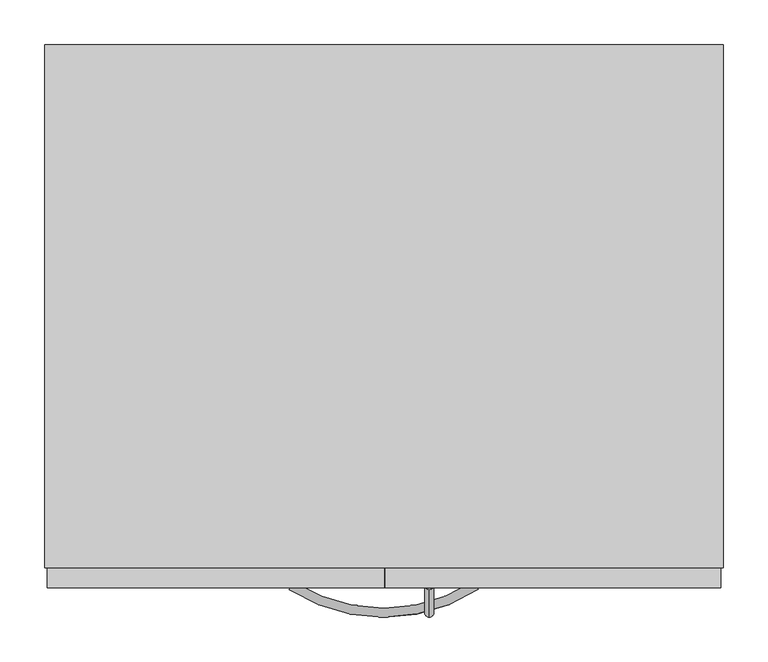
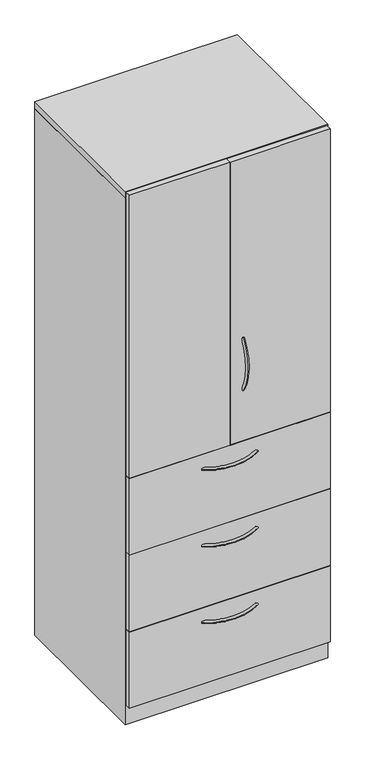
"""IFC4 building model written with IfcOpenShell, lengths in millimetres: furniture geometry, Steelcase - Universal Storage - Cabinet - Combination - Proud Steel : 83 1/2H - Hinged Doors/3 Drawers - 24D x 30W."""

from ifc_helpers import new_model, si_unit, point, frame, origin, place, context, project, spatial, polyline, circle_curve, ellipse_curve, trimmed, outline, extrude, faceted_brep, source, transform, mapped, element, save
from ifc_brep_helpers import plane_surface, revolved_surface, advanced_brep


def furniture_d0ad744f(model_context):
    return source(origin(), model_context, "Body", "SolidModel", [
        extrude(outline(polyline([(758.8225413, -479.552), (3.1725353, -479.552), (3.1725353, -457.3261219), (758.8225413, -457.3261219), (758.8225413, -479.552)])), frame((0.0, 0.0, 77.724), z_axis=(0.0, 0.0, 1.0), x_axis=(1.0, 0.0, 0.0)), (0.0, 0.0, 1.0), 303.276),
        extrude(outline(polyline([(758.8225413, -479.552), (3.1725353, -479.552), (3.1725353, -457.3261219), (758.8225413, -457.3261219), (758.8225413, -479.552)])), frame((0.0, 0.0, 382.524), z_axis=(0.0, 0.0, 1.0), x_axis=(1.0, 0.0, 0.0)), (0.0, 0.0, 1.0), 303.276),
        extrude(outline(polyline([(758.8225413, -479.552), (3.1725353, -479.552), (3.1725353, -457.3261219), (758.8225413, -457.3261219), (758.8225413, -479.552)])), frame((0.0, 0.0, 687.3240349), z_axis=(0.0, 0.0, 1.0), x_axis=(1.0, 0.0, 0.0)), (0.0, 0.0, 1.0), 303.2759651),
        extrude(outline(polyline([(381.0, -479.552), (3.1725353, -479.552), (3.1725353, -457.3261219), (381.0, -457.3261219), (381.0, -479.552)])), frame((0.0, 0.0, 992.5062596), z_axis=(0.0, 0.0, 1.0), x_axis=(1.0, 0.0, 0.0)), (0.0, 0.0, 1.0), 1125.22),
        extrude(outline(polyline([(758.8225413, -479.552), (382.5239992, -479.552), (382.5239992, -457.3261219), (758.8225413, -457.3261219), (758.8225413, -479.552)])), frame((0.0, 0.0, 992.5062596), z_axis=(0.0, 0.0, 1.0), x_axis=(1.0, 0.0, 0.0)), (0.0, 0.0, 1.0), 1125.22),
        advanced_brep(
        [(431.7682496, -481.5705994, 1404.643666), (431.7682496, -473.0108019, 1399.1705073), (431.7682496, -481.1337636, 1192.3367456), (431.7682496, -472.5965612, 1197.8450825)],
        [
            (0, 1, circle_curve(frame((431.7682496, -477.2907007, 1401.9070866), z_axis=(0.0, 0.5386967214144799, 0.842499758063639), x_axis=(0.0, 0.842499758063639, -0.5386967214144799)), 5.08)),
            (1, 0, circle_curve(frame((431.7682496, -477.2907007, 1401.9070866), z_axis=(0.0, 0.5386967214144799, 0.842499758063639), x_axis=(0.0, 0.842499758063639, -0.5386967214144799)), 5.08)),
            (2, 3, circle_curve(frame((431.7682496, -476.8651624, 1195.0909141), z_axis=(0.0, 0.5421591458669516, -0.8402758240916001), x_axis=(0.0, 0.8402758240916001, 0.5421591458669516)), 5.08)),
            (3, 2, circle_curve(frame((431.7682496, -476.8651624, 1195.0909141), z_axis=(0.0, 0.5421591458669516, -0.8402758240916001), x_axis=(0.0, 0.8402758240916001, 0.5421591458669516)), 5.08)),
            (3, 1, circle_curve(frame((431.7682496, -316.0827352, 1298.8302589), z_axis=(-1.0, 0.0, 0.0), x_axis=(0.0, -0.8424997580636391, 0.5386967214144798)), 186.2648211)),
            (0, 2, circle_curve(frame((431.7682496, -316.0827352, 1298.8302589), z_axis=(1.0, 0.0, 0.0), x_axis=(0.0, -0.8424997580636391, 0.5386967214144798)), 196.4248211)),
        ],
        [
            plane_surface(frame((432.5619996, -476.6365286, 1401.4888072), z_axis=(0.0, 0.5386967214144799, 0.8424997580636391), x_axis=(1.0, 0.0, 0.0))),
            plane_surface(frame((432.5619996, -476.2127171, 1195.511882), z_axis=(0.0, 0.5421591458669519, -0.8402758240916), x_axis=(1.0, 0.0, 0.0))),
            revolved_surface(trimmed(ellipse_curve(frame((431.7682496, -477.2907007, 1401.9070866), z_axis=(0.0, 0.5386967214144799, 0.842499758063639), x_axis=(0.0, 0.842499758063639, -0.5386967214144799)), 5.08, 5.08), [point((431.7682496, -481.5705994, 1404.643666))], [point((431.7682496, -473.0108019, 1399.1705073))], True, "CARTESIAN"), (432.5619996, -316.0827352, 1298.8302589), (1.0, 0.0, 0.0)),
            revolved_surface(trimmed(ellipse_curve(frame((431.7682496, -477.2907007, 1401.9070866), z_axis=(0.0, 0.5386967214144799, 0.842499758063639), x_axis=(0.0, 0.842499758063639, -0.5386967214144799)), 5.08, 5.08), [point((431.7682496, -473.0108019, 1399.1705073))], [point((431.7682496, -481.5705994, 1404.643666))], True, "CARTESIAN"), (432.5619996, -316.0827352, 1298.8302589), (1.0, 0.0, 0.0)),
        ],
        [
            (0, [[1, 2]]),
            (1, [[3, 4]]),
            (2, [[5, -1, 6, -4]]),
            (3, [[-6, -2, -5, -3]]),
        ],
    ),
        advanced_brep(
        [(274.4245932, -481.5705994, 323.56425), (279.8977519, -473.0108019, 323.56425), (486.7315136, -481.1337636, 323.56425), (481.2231767, -472.5965612, 323.56425)],
        [
            (0, 1, circle_curve(frame((277.1611726, -477.2907007, 323.56425), z_axis=(-0.8424997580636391, 0.5386967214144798, 0.0), x_axis=(0.5386967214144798, 0.8424997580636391, 0.0)), 5.08)),
            (1, 0, circle_curve(frame((277.1611726, -477.2907007, 323.56425), z_axis=(-0.8424997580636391, 0.5386967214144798, 0.0), x_axis=(0.5386967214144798, 0.8424997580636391, 0.0)), 5.08)),
            (2, 3, circle_curve(frame((483.9773452, -476.8651624, 323.56425), z_axis=(0.8402758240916, 0.5421591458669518, 0.0), x_axis=(-0.5421591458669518, 0.8402758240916, 0.0)), 5.08)),
            (3, 2, circle_curve(frame((483.9773452, -476.8651624, 323.56425), z_axis=(0.8402758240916, 0.5421591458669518, 0.0), x_axis=(-0.5421591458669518, 0.8402758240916, 0.0)), 5.08)),
            (3, 1, circle_curve(frame((380.2380004, -316.0827352, 323.56425), z_axis=(0.0, 0.0, -1.0), x_axis=(-0.5386967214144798, -0.8424997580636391, 0.0)), 186.2648211)),
            (0, 2, circle_curve(frame((380.2380004, -316.0827352, 323.56425), z_axis=(0.0, 0.0, 1.0), x_axis=(-0.5386967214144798, -0.8424997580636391, 0.0)), 196.4248211)),
        ],
        [
            plane_surface(frame((277.5794521, -476.6365286, 324.358), z_axis=(-0.8424997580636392, 0.5386967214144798, 0.0), x_axis=(0.0, 0.0, 1.0))),
            plane_surface(frame((483.5563772, -476.2127171, 324.358), z_axis=(0.8402758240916, 0.5421591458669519, 0.0), x_axis=(0.0, 0.0, 1.0))),
            revolved_surface(trimmed(ellipse_curve(frame((277.1611726, -477.2907007, 323.56425), z_axis=(-0.8424997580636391, 0.5386967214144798, 0.0), x_axis=(0.5386967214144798, 0.8424997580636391, 0.0)), 5.08, 5.08), [point((274.4245932, -481.5705994, 323.56425))], [point((279.8977519, -473.0108019, 323.56425))], True, "CARTESIAN"), (380.2380004, -316.0827352, 324.358), (0.0, 0.0, 1.0)),
            revolved_surface(trimmed(ellipse_curve(frame((277.1611726, -477.2907007, 323.56425), z_axis=(-0.8424997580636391, 0.5386967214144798, 0.0), x_axis=(0.5386967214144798, 0.8424997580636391, 0.0)), 5.08, 5.08), [point((279.8977519, -473.0108019, 323.56425))], [point((274.4245932, -481.5705994, 323.56425))], True, "CARTESIAN"), (380.2380004, -316.0827352, 324.358), (0.0, 0.0, 1.0)),
        ],
        [
            (0, [[1, 2]]),
            (1, [[3, 4]]),
            (2, [[5, -1, 6, -4]]),
            (3, [[-6, -2, -5, -3]]),
        ],
    ),
        advanced_brep(
        [(274.4245932, -481.5705994, 627.85625), (279.8977519, -473.0108019, 627.85625), (486.7315136, -481.1337636, 627.85625), (481.2231767, -472.5965612, 627.85625)],
        [
            (0, 1, circle_curve(frame((277.1611726, -477.2907007, 627.85625), z_axis=(-0.8424997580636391, 0.5386967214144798, 0.0), x_axis=(0.5386967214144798, 0.8424997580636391, 0.0)), 5.08)),
            (1, 0, circle_curve(frame((277.1611726, -477.2907007, 627.85625), z_axis=(-0.8424997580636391, 0.5386967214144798, 0.0), x_axis=(0.5386967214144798, 0.8424997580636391, 0.0)), 5.08)),
            (2, 3, circle_curve(frame((483.9773452, -476.8651624, 627.85625), z_axis=(0.8402758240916, 0.5421591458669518, 0.0), x_axis=(-0.5421591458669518, 0.8402758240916, 0.0)), 5.08)),
            (3, 2, circle_curve(frame((483.9773452, -476.8651624, 627.85625), z_axis=(0.8402758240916, 0.5421591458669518, 0.0), x_axis=(-0.5421591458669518, 0.8402758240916, 0.0)), 5.08)),
            (3, 1, circle_curve(frame((380.2380004, -316.0827352, 627.85625), z_axis=(0.0, 0.0, -1.0), x_axis=(-0.5386967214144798, -0.8424997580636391, 0.0)), 186.2648211)),
            (0, 2, circle_curve(frame((380.2380004, -316.0827352, 627.85625), z_axis=(0.0, 0.0, 1.0), x_axis=(-0.5386967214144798, -0.8424997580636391, 0.0)), 196.4248211)),
        ],
        [
            plane_surface(frame((277.5794521, -476.6365286, 628.65), z_axis=(-0.8424997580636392, 0.5386967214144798, 0.0), x_axis=(0.0, 0.0, 1.0))),
            plane_surface(frame((483.5563772, -476.2127171, 628.65), z_axis=(0.8402758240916, 0.5421591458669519, 0.0), x_axis=(0.0, 0.0, 1.0))),
            revolved_surface(trimmed(ellipse_curve(frame((277.1611726, -477.2907007, 627.85625), z_axis=(-0.8424997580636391, 0.5386967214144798, 0.0), x_axis=(0.5386967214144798, 0.8424997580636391, 0.0)), 5.08, 5.08), [point((274.4245932, -481.5705994, 627.85625))], [point((279.8977519, -473.0108019, 627.85625))], True, "CARTESIAN"), (380.2380004, -316.0827352, 628.65), (0.0, 0.0, 1.0)),
            revolved_surface(trimmed(ellipse_curve(frame((277.1611726, -477.2907007, 627.85625), z_axis=(-0.8424997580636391, 0.5386967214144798, 0.0), x_axis=(0.5386967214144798, 0.8424997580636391, 0.0)), 5.08, 5.08), [point((279.8977519, -473.0108019, 627.85625))], [point((274.4245932, -481.5705994, 627.85625))], True, "CARTESIAN"), (380.2380004, -316.0827352, 628.65), (0.0, 0.0, 1.0)),
        ],
        [
            (0, [[1, 2]]),
            (1, [[3, 4]]),
            (2, [[5, -1, 6, -4]]),
            (3, [[-6, -2, -5, -3]]),
        ],
    ),
        advanced_brep(
        [(274.4245932, -481.5705994, 932.65625), (279.8977519, -473.0108019, 932.65625), (486.7315136, -481.1337636, 932.65625), (481.2231767, -472.5965612, 932.65625)],
        [
            (0, 1, circle_curve(frame((277.1611726, -477.2907007, 932.65625), z_axis=(-0.8424997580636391, 0.5386967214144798, 0.0), x_axis=(0.5386967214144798, 0.8424997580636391, 0.0)), 5.08)),
            (1, 0, circle_curve(frame((277.1611726, -477.2907007, 932.65625), z_axis=(-0.8424997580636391, 0.5386967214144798, 0.0), x_axis=(0.5386967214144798, 0.8424997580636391, 0.0)), 5.08)),
            (2, 3, circle_curve(frame((483.9773452, -476.8651624, 932.65625), z_axis=(0.8402758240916, 0.5421591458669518, 0.0), x_axis=(-0.5421591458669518, 0.8402758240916, 0.0)), 5.08)),
            (3, 2, circle_curve(frame((483.9773452, -476.8651624, 932.65625), z_axis=(0.8402758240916, 0.5421591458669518, 0.0), x_axis=(-0.5421591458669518, 0.8402758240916, 0.0)), 5.08)),
            (3, 1, circle_curve(frame((380.2380004, -316.0827352, 932.65625), z_axis=(0.0, 0.0, -1.0), x_axis=(-0.5386967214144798, -0.8424997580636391, 0.0)), 186.2648211)),
            (0, 2, circle_curve(frame((380.2380004, -316.0827352, 932.65625), z_axis=(0.0, 0.0, 1.0), x_axis=(-0.5386967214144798, -0.8424997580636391, 0.0)), 196.4248211)),
        ],
        [
            plane_surface(frame((277.5794521, -476.6365286, 933.45), z_axis=(-0.8424997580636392, 0.5386967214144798, 0.0), x_axis=(0.0, 0.0, 1.0))),
            plane_surface(frame((483.5563772, -476.2127171, 933.45), z_axis=(0.8402758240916, 0.5421591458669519, 0.0), x_axis=(0.0, 0.0, 1.0))),
            revolved_surface(trimmed(ellipse_curve(frame((277.1611726, -477.2907007, 932.65625), z_axis=(-0.8424997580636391, 0.5386967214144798, 0.0), x_axis=(0.5386967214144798, 0.8424997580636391, 0.0)), 5.08, 5.08), [point((274.4245932, -481.5705994, 932.65625))], [point((279.8977519, -473.0108019, 932.65625))], True, "CARTESIAN"), (380.2380004, -316.0827352, 933.45), (0.0, 0.0, 1.0)),
            revolved_surface(trimmed(ellipse_curve(frame((277.1611726, -477.2907007, 932.65625), z_axis=(-0.8424997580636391, 0.5386967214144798, 0.0), x_axis=(0.5386967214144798, 0.8424997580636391, 0.0)), 5.08, 5.08), [point((279.8977519, -473.0108019, 932.65625))], [point((274.4245932, -481.5705994, 932.65625))], True, "CARTESIAN"), (380.2380004, -316.0827352, 933.45), (0.0, 0.0, 1.0)),
        ],
        [
            (0, [[1, 2]]),
            (1, [[3, 4]]),
            (2, [[5, -1, 6, -4]]),
            (3, [[-6, -2, -5, -3]]),
        ],
    ),
        faceted_brep([(25.4000008, -457.3261219, 76.2), (736.6000242, -457.3261219, 76.2), (736.6000242, 104.6479992, 76.2), (25.4000008, 104.6479992, 76.2), (762.0, 130.048, 0.0), (762.0, -457.3261219, 0.0), (0.0, -457.3261219, 0.0), (0.0, 130.048, 0.0), (0.0, 130.048, 2093.976), (762.0, 130.048, 2093.976), (0.0, -457.3261219, 2093.976), (762.0, -457.3261219, 2093.976), (736.6000242, -457.3261219, 2093.976), (25.4000008, -457.3261219, 2093.976), (736.6000242, 104.6479992, 2093.976), (25.4000008, 104.6479992, 2093.976)], [[[0, 1, 2, 3]], [[4, 5, 6, 7]], [[4, 7, 8, 9]], [[8, 7, 6, 10]], [[10, 6, 5, 11, 12, 1, 0, 13]], [[11, 5, 4, 9]], [[14, 12, 11, 9, 8, 10, 13, 15]], [[12, 14, 2, 1]], [[15, 13, 0, 3]], [[14, 15, 3, 2]]]),
        extrude(outline(polyline([(762.0, 130.048), (762.0, -457.3261219), (0.0, -457.3261219), (0.0, 130.048), (762.0, 130.048)])), frame((0.0, 0.0, 2095.4999516), z_axis=(0.0, 0.0, 1.0), x_axis=(1.0, 0.0, 0.0)), (0.0, 0.0, 1.0), 25.4000484),
    ])


if __name__ == "__main__":
    model = new_model("IFC4")
    model_context = context("Model", 3, world=origin())
    ifc_project = project(units=[si_unit("LENGTHUNIT", "METRE", prefix="MILLI")], contexts=[model_context])
    site = spatial("IfcSite", under=ifc_project)
    building = spatial("IfcBuilding", under=site)
    placement = place(None, origin())
    furniture_shape = furniture_d0ad744f(model_context)
    element("IfcFurniture", 1, ObjectType="Steelcase - Universal Storage - Cabinet - Combination - Proud Steel : 83 1/2H - Hinged Doors/3 Drawers - 24D x 30W", at=placement, inside=building, context=model_context, shape_type="MappedRepresentation", body=[
        mapped(furniture_shape, transform((0.0, 0.0, 0.0), x_axis=(1.0, 0.0, 0.0), y_axis=(0.0, 1.0, 0.0), z_axis=(0.0, 0.0, 1.0))),
    ])
    save(model, "model.ifc")
